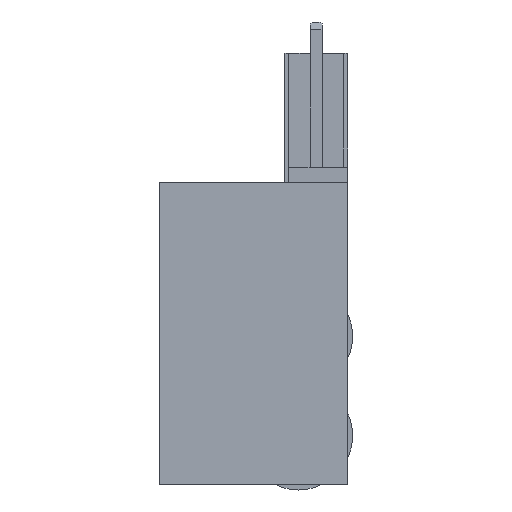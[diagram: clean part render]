
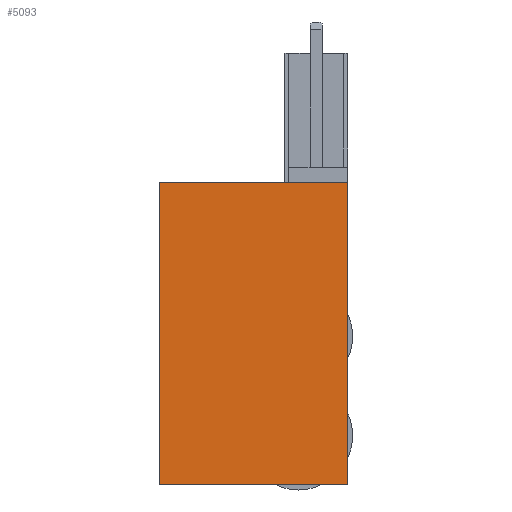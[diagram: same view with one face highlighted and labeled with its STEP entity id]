
A CAD part, left-side view. The second image highlights one B-rep face of the part: STEP entity #5093.
In plain terms, the highlighted planar face has unit normal (-1, 0, 0).
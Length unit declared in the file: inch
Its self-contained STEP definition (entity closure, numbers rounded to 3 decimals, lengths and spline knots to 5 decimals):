
#405=LINE('',#7117,#934);
#453=LINE('',#7217,#982);
#758=LINE('',#8747,#1287);
#759=LINE('',#8748,#1288);
#934=VECTOR('',#5717,0.3937);
#982=VECTOR('',#5803,0.3937);
#1287=VECTOR('',#6382,0.3937);
#1288=VECTOR('',#6383,0.3937);
#1578=FACE_OUTER_BOUND('',#1859,.T.);
#1859=EDGE_LOOP('',(#4495,#4496,#4497,#4498));
#2130=VERTEX_POINT('',#7114);
#2131=VERTEX_POINT('',#7116);
#2164=VERTEX_POINT('',#7216);
#2392=VERTEX_POINT('',#8746);
#2656=EDGE_CURVE('',#2130,#2131,#405,.T.);
#2706=EDGE_CURVE('',#2164,#2131,#453,.T.);
#3108=EDGE_CURVE('',#2392,#2164,#758,.T.);
#3109=EDGE_CURVE('',#2392,#2130,#759,.T.);
#4495=ORIENTED_EDGE('',*,*,#3108,.T.);
#4496=ORIENTED_EDGE('',*,*,#2706,.T.);
#4497=ORIENTED_EDGE('',*,*,#2656,.F.);
#4498=ORIENTED_EDGE('',*,*,#3109,.F.);
#4714=PLANE('',#5361);
#5093=ADVANCED_FACE('',(#1578),#4714,.T.);
#5361=AXIS2_PLACEMENT_3D('',#8745,#6380,#6381);
#5717=DIRECTION('',(0.,0.,1.));
#5803=DIRECTION('',(0.,1.,0.));
#6380=DIRECTION('center_axis',(-1.,0.,0.));
#6381=DIRECTION('ref_axis',(0.,0.,1.));
#6382=DIRECTION('',(0.,0.,1.));
#6383=DIRECTION('',(0.,1.,0.));
#7114=CARTESIAN_POINT('',(0.,0.48,-0.77));
#7116=CARTESIAN_POINT('',(0.,0.48,0.));
#7117=CARTESIAN_POINT('',(0.,0.48,-0.77));
#7216=CARTESIAN_POINT('',(0.,0.,0.));
#7217=CARTESIAN_POINT('',(0.,0.,0.));
#8745=CARTESIAN_POINT('Origin',(0.,0.,-0.77));
#8746=CARTESIAN_POINT('',(0.,0.,-0.77));
#8747=CARTESIAN_POINT('',(0.,0.,-0.77));
#8748=CARTESIAN_POINT('',(0.,0.,-0.77));
